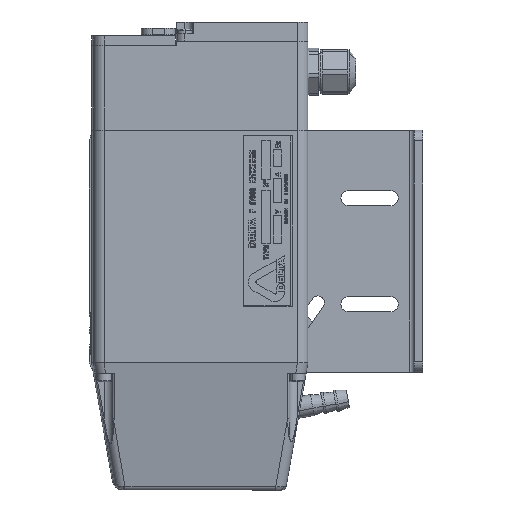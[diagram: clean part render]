
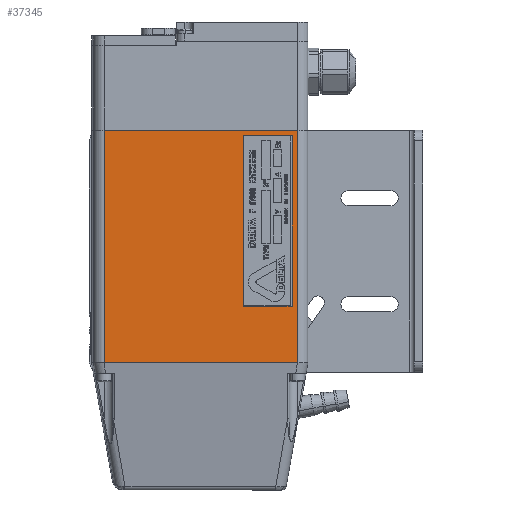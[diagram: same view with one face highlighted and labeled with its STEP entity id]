
A CAD part, left-side view. The second image highlights one B-rep face of the part: STEP entity #37345.
In plain terms, the highlighted planar face has unit normal (-1, 0, 0).
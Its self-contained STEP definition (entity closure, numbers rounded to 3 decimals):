
#2778 = LINE ( 'NONE', #102368, #43817 ) ;
#4775 = ORIENTED_EDGE ( 'NONE', *, *, #13317, .T. ) ;
#5069 = CARTESIAN_POINT ( 'NONE',  ( -68.607, -34.416, 161.75 ) ) ;
#5561 = LINE ( 'NONE', #23241, #49113 ) ;
#6151 = DIRECTION ( 'NONE',  ( 0., -1., 0. ) ) ;
#7978 = DIRECTION ( 'NONE',  ( 0., 0., -1. ) ) ;
#10654 = ORIENTED_EDGE ( 'NONE', *, *, #77188, .T. ) ;
#10884 = CARTESIAN_POINT ( 'NONE',  ( -68.607, -11.416, 161.75 ) ) ;
#11642 = DIRECTION ( 'NONE',  ( 1., 0., 0. ) ) ;
#12018 = FACE_OUTER_BOUND ( 'NONE', #67525, .T. ) ;
#12274 = DIRECTION ( 'NONE',  ( 0., 0., -1. ) ) ;
#13317 = EDGE_CURVE ( 'NONE', #44865, #52115, #91408, .T. ) ;
#14118 = VERTEX_POINT ( 'NONE', #89883 ) ;
#16727 = VECTOR ( 'NONE', #54924, 1000. ) ;
#20988 = CARTESIAN_POINT ( 'NONE',  ( -68.607, 60.084, 54.75 ) ) ;
#21234 = VECTOR ( 'NONE', #79646, 1000. ) ;
#23241 = CARTESIAN_POINT ( 'NONE',  ( -68.607, -34.416, 161.75 ) ) ;
#23330 = AXIS2_PLACEMENT_3D ( 'NONE', #60783, #11642, #69002 ) ;
#30022 = EDGE_CURVE ( 'NONE', #14118, #54848, #5561, .T. ) ;
#30609 = VECTOR ( 'NONE', #7978, 1000. ) ;
#32072 = EDGE_LOOP ( 'NONE', ( #45715, #74176, #84388, #37750 ) ) ;
#33837 = FACE_BOUND ( 'NONE', #32072, .T. ) ;
#35498 = EDGE_CURVE ( 'NONE', #39773, #43092, #2778, .T. ) ;
#35591 = VERTEX_POINT ( 'NONE', #103778 ) ;
#36967 = LINE ( 'NONE', #20988, #58711 ) ;
#37345 = ADVANCED_FACE ( 'NONE', ( #33837, #12018 ), #68608, .F. ) ;
#37668 = LINE ( 'NONE', #96503, #78722 ) ;
#37750 = ORIENTED_EDGE ( 'NONE', *, *, #77877, .F. ) ;
#38513 = LINE ( 'NONE', #45611, #16727 ) ;
#39773 = VERTEX_POINT ( 'NONE', #10884 ) ;
#39934 = VERTEX_POINT ( 'NONE', #86903 ) ;
#40117 = EDGE_CURVE ( 'NONE', #35591, #39934, #96066, .T. ) ;
#43092 = VERTEX_POINT ( 'NONE', #62164 ) ;
#43817 = VECTOR ( 'NONE', #12274, 1000. ) ;
#44865 = VERTEX_POINT ( 'NONE', #73795 ) ;
#45611 = CARTESIAN_POINT ( 'NONE',  ( -68.607, -34.416, 161.75 ) ) ;
#45715 = ORIENTED_EDGE ( 'NONE', *, *, #35498, .F. ) ;
#49113 = VECTOR ( 'NONE', #71976, 1000. ) ;
#52115 = VERTEX_POINT ( 'NONE', #75387 ) ;
#54848 = VERTEX_POINT ( 'NONE', #5069 ) ;
#54924 = DIRECTION ( 'NONE',  ( 0., 1., 0. ) ) ;
#57406 = CARTESIAN_POINT ( 'NONE',  ( -68.607, 54.12, 164.25 ) ) ;
#58711 = VECTOR ( 'NONE', #70051, 1000. ) ;
#60783 = CARTESIAN_POINT ( 'NONE',  ( -68.607, 60.084, 164.25 ) ) ;
#62164 = CARTESIAN_POINT ( 'NONE',  ( -68.607, -11.416, 81.25 ) ) ;
#67439 = ORIENTED_EDGE ( 'NONE', *, *, #40117, .T. ) ;
#67525 = EDGE_LOOP ( 'NONE', ( #10654, #4775, #96895, #67439 ) ) ;
#68608 = PLANE ( 'NONE',  #23330 ) ;
#69002 = DIRECTION ( 'NONE',  ( 0., 1., 0. ) ) ;
#69541 = VECTOR ( 'NONE', #77971, 1000. ) ;
#69679 = CARTESIAN_POINT ( 'NONE',  ( -68.607, -36.916, 164.25 ) ) ;
#70051 = DIRECTION ( 'NONE',  ( 0., -1., 0. ) ) ;
#71322 = CARTESIAN_POINT ( 'NONE',  ( -68.607, -34.416, 81.25 ) ) ;
#71976 = DIRECTION ( 'NONE',  ( 0., 0., 1. ) ) ;
#72686 = EDGE_CURVE ( 'NONE', #54848, #39773, #38513, .T. ) ;
#73795 = CARTESIAN_POINT ( 'NONE',  ( -68.607, -36.916, 54.75 ) ) ;
#74176 = ORIENTED_EDGE ( 'NONE', *, *, #72686, .F. ) ;
#75387 = CARTESIAN_POINT ( 'NONE',  ( -68.607, -36.916, 164.25 ) ) ;
#77188 = EDGE_CURVE ( 'NONE', #39934, #44865, #36967, .T. ) ;
#77877 = EDGE_CURVE ( 'NONE', #43092, #14118, #86615, .T. ) ;
#77971 = DIRECTION ( 'NONE',  ( 0., 0., 1. ) ) ;
#78722 = VECTOR ( 'NONE', #6151, 1000. ) ;
#79646 = DIRECTION ( 'NONE',  ( 0., -1., 0. ) ) ;
#84388 = ORIENTED_EDGE ( 'NONE', *, *, #30022, .F. ) ;
#86615 = LINE ( 'NONE', #71322, #21234 ) ;
#86903 = CARTESIAN_POINT ( 'NONE',  ( -68.607, 54.12, 54.75 ) ) ;
#89883 = CARTESIAN_POINT ( 'NONE',  ( -68.607, -34.416, 81.25 ) ) ;
#91408 = LINE ( 'NONE', #69679, #69541 ) ;
#96066 = LINE ( 'NONE', #57406, #30609 ) ;
#96503 = CARTESIAN_POINT ( 'NONE',  ( -68.607, 60.084, 164.25 ) ) ;
#96895 = ORIENTED_EDGE ( 'NONE', *, *, #98460, .F. ) ;
#98460 = EDGE_CURVE ( 'NONE', #35591, #52115, #37668, .T. ) ;
#102368 = CARTESIAN_POINT ( 'NONE',  ( -68.607, -11.416, 161.75 ) ) ;
#103778 = CARTESIAN_POINT ( 'NONE',  ( -68.607, 54.12, 164.25 ) ) ;
